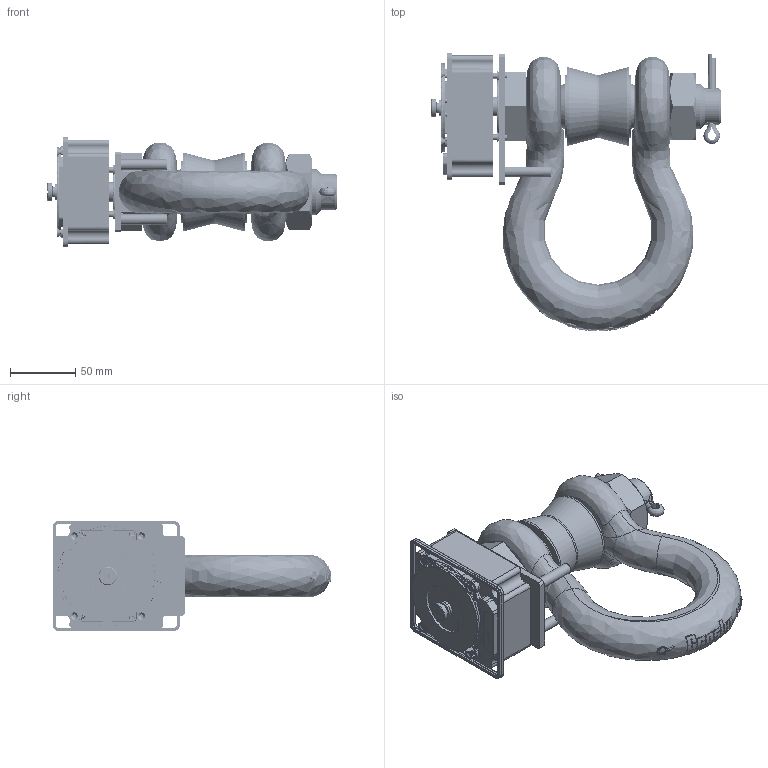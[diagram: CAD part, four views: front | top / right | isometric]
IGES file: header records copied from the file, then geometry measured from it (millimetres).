
Global section: file name: WLS12T; native system: Autodesk Inventor 2020; preprocessor: unknown; author: Achacko; date: 20191024.150148; units: millimetre
Bounding box: 221.69 x 213.39 x 84.4 mm (x, y, z)
Volume: 708236.2 mm3; surface area: 232734 mm2
Topology: 26 solids, 40 shells, 6331 faces, 17556 edges, 11439 vertices
Faces by surface type: bspline 6331
